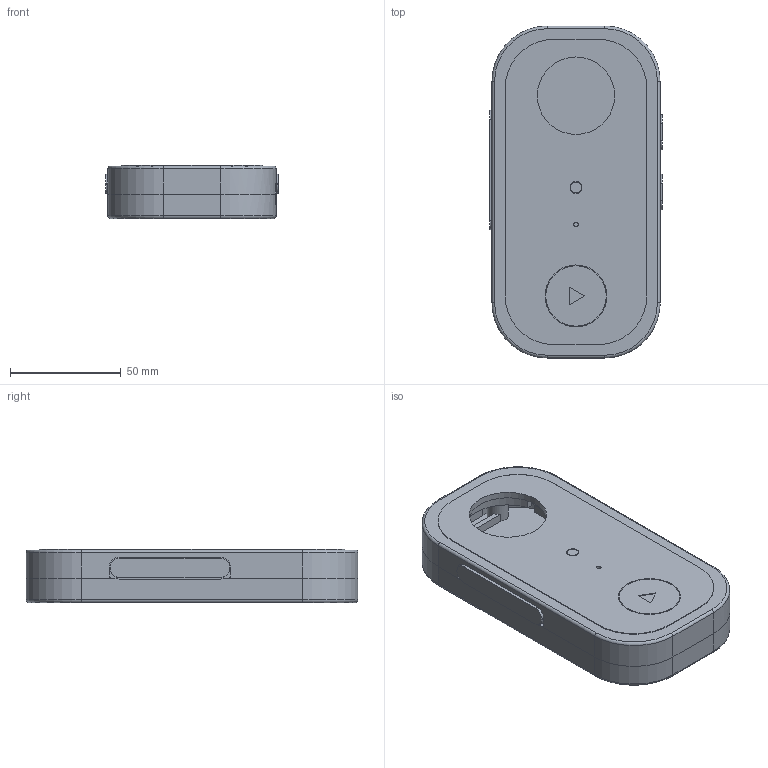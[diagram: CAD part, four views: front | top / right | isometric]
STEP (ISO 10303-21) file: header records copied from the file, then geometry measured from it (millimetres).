
FILE_DESCRIPTION(/* description */ (''),/* implementation_level */ '2;1');
FILE_NAME(/* name */ 'Walkie_One_S1_PRINT_ONLY_8_PARTS.step',/* time_stamp */ '2026-09-16T19:15:11-07:00',/* author */ (''),/* organization */ (''),/* preprocessor_version */ 'ST-DEVELOPER v20.1',/* originating_system */ 'Autodesk Translation Framework v15.8.0.0',/* authorisation */ '');
FILE_SCHEMA (('AUTOMOTIVE_DESIGN { 1 0 10303 214 3 1 1 }'));
Length unit declared in the file: centimetre
Products named in the file (9): 2026-09-16-19-15-10-916; 2026-09-16-19-15-11-455; 2026-09-16-19-15-11-502; 2026-09-16-19-15-11-538; 2026-09-16-19-15-11-567; 2026-09-16-19-15-11-598; 2026-09-16-19-15-11-628; 2026-09-16-19-15-11-658; 2026-09-16-19-15-11-693
Assembly tree (8 placements, depth 2):
  2026-09-16-19-15-10-916
    2026-09-16-19-15-11-455
    2026-09-16-19-15-11-502
    2026-09-16-19-15-11-538
    2026-09-16-19-15-11-567
    2026-09-16-19-15-11-598
    2026-09-16-19-15-11-628
    2026-09-16-19-15-11-658
    2026-09-16-19-15-11-693
Bounding box: 78 x 150 x 24 mm (x, y, z)
Volume: 93693.7 mm3; surface area: 75407.3 mm2
Topology: 8 solids, 8 shells, 598 faces, 1582 edges, 1048 vertices
Faces by surface type: plane 435, cylinder 155, torus 8
Full cylindrical faces by diameter (mm): 2 x1, 3.4 x12, 3.6 x3, 4 x6, 4.9 x2, 5.4 x1, 6.2 x4, 7.8 x1, 9.6 x2, 22.4 x1, 27.3 x1, 28 x1, 32.4 x1, 35 x1
Entity records: 18789 total; most frequent: CARTESIAN_POINT 3295, ORIENTED_EDGE 3164, DIRECTION 3150, EDGE_CURVE 1582, LINE 1232, VECTOR 1232, VERTEX_POINT 1048, AXIS2_PLACEMENT_3D 959
